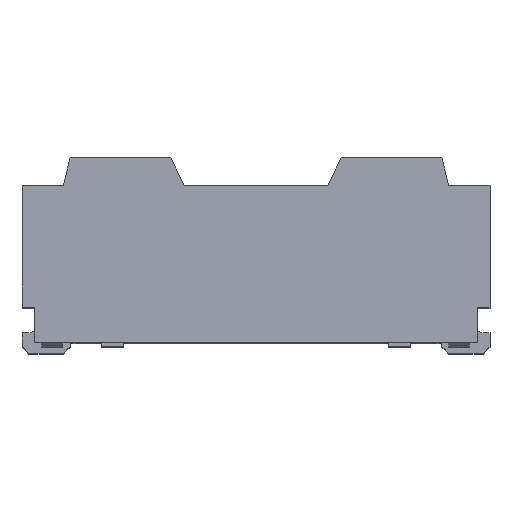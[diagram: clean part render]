
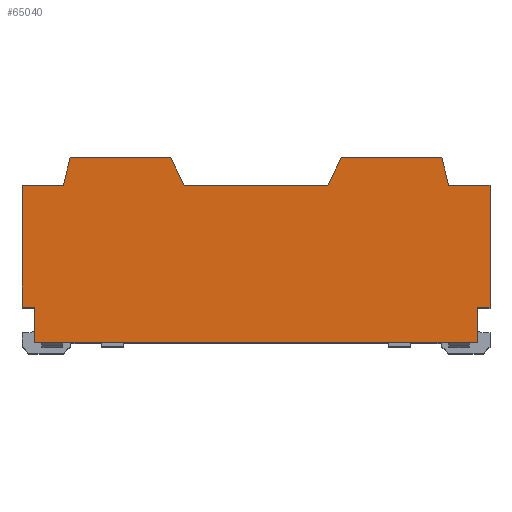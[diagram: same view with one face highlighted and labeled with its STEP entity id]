
A CAD part, top view. The second image highlights one B-rep face of the part: STEP entity #65040.
In plain terms, the highlighted planar face has unit normal (0, 0, 1).
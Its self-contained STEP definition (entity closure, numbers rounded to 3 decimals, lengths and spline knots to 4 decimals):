
#17405=DIRECTION('',(0.447,0.894,0.));
#17406=VECTOR('',#17405,0.2236);
#17407=CARTESIAN_POINT('',(0.52,1.14,8.15));
#17408=LINE('',#17407,#17406);
#17409=DIRECTION('',(0.243,-0.97,0.));
#17410=VECTOR('',#17409,0.2062);
#17411=CARTESIAN_POINT('',(1.35,1.34,8.15));
#17412=LINE('',#17411,#17410);
#17413=DIRECTION('',(0.,-1.,0.));
#17414=VECTOR('',#17413,0.885);
#17415=CARTESIAN_POINT('',(1.7,1.14,8.15));
#17416=LINE('',#17415,#17414);
#17417=DIRECTION('',(-1.,0.,0.));
#17418=VECTOR('',#17417,0.09);
#17419=CARTESIAN_POINT('',(1.7,0.255,8.15));
#17420=LINE('',#17419,#17418);
#17421=DIRECTION('',(0.,-1.,0.));
#17422=VECTOR('',#17421,0.255);
#17423=CARTESIAN_POINT('',(1.61,0.255,8.15));
#17424=LINE('',#17423,#17422);
#17425=DIRECTION('',(-1.,0.,0.));
#17426=VECTOR('',#17425,3.22);
#17427=CARTESIAN_POINT('',(1.61,0.,8.15));
#17428=LINE('',#17427,#17426);
#17429=DIRECTION('',(0.,1.,0.));
#17430=VECTOR('',#17429,0.255);
#17431=CARTESIAN_POINT('',(-1.61,0.,8.15));
#17432=LINE('',#17431,#17430);
#17433=DIRECTION('',(-1.,0.,0.));
#17434=VECTOR('',#17433,0.09);
#17435=CARTESIAN_POINT('',(-1.61,0.255,8.15));
#17436=LINE('',#17435,#17434);
#17437=DIRECTION('',(0.,1.,0.));
#17438=VECTOR('',#17437,0.885);
#17439=CARTESIAN_POINT('',(-1.7,0.255,8.15));
#17440=LINE('',#17439,#17438);
#17441=DIRECTION('',(0.243,0.97,0.));
#17442=VECTOR('',#17441,0.2062);
#17443=CARTESIAN_POINT('',(-1.4,1.14,8.15));
#17444=LINE('',#17443,#17442);
#17445=DIRECTION('',(1.,0.,0.));
#17446=VECTOR('',#17445,0.73);
#17447=CARTESIAN_POINT('',(-1.35,1.34,8.15));
#17448=LINE('',#17447,#17446);
#17449=DIRECTION('',(0.447,-0.894,0.));
#17450=VECTOR('',#17449,0.2236);
#17451=CARTESIAN_POINT('',(-0.62,1.34,8.15));
#17452=LINE('',#17451,#17450);
#17453=DIRECTION('',(-1.,0.,0.));
#17454=VECTOR('',#17453,1.04);
#17455=CARTESIAN_POINT('',(0.52,1.14,8.15));
#17456=LINE('',#17455,#17454);
#17494=DIRECTION('',(-1.,0.,0.));
#17495=VECTOR('',#17494,0.3);
#17496=CARTESIAN_POINT('',(-1.4,1.14,8.15));
#17497=LINE('',#17496,#17495);
#18246=DIRECTION('',(-1.,0.,0.));
#18247=VECTOR('',#18246,0.73);
#18248=CARTESIAN_POINT('',(1.35,1.34,8.15));
#18249=LINE('',#18248,#18247);
#18935=DIRECTION('',(-1.,0.,0.));
#18936=VECTOR('',#18935,0.3);
#18937=CARTESIAN_POINT('',(1.7,1.14,8.15));
#18938=LINE('',#18937,#18936);
#33829=CARTESIAN_POINT('',(1.7,0.255,8.15));
#33830=VERTEX_POINT('',#33829);
#33831=CARTESIAN_POINT('',(1.7,1.14,8.15));
#33832=VERTEX_POINT('',#33831);
#35051=CARTESIAN_POINT('',(-1.7,1.14,8.15));
#35052=VERTEX_POINT('',#35051);
#35053=CARTESIAN_POINT('',(-1.7,0.255,8.15));
#35054=VERTEX_POINT('',#35053);
#36507=CARTESIAN_POINT('',(-1.61,0.,8.15));
#36508=CARTESIAN_POINT('',(-1.61,0.255,8.15));
#36509=VERTEX_POINT('',#36507);
#36510=VERTEX_POINT('',#36508);
#36519=CARTESIAN_POINT('',(0.52,1.14,8.15));
#36520=CARTESIAN_POINT('',(-0.52,1.14,8.15));
#36521=VERTEX_POINT('',#36519);
#36522=VERTEX_POINT('',#36520);
#36523=CARTESIAN_POINT('',(0.62,1.34,8.15));
#36524=VERTEX_POINT('',#36523);
#36525=CARTESIAN_POINT('',(1.35,1.34,8.15));
#36526=VERTEX_POINT('',#36525);
#36527=CARTESIAN_POINT('',(1.4,1.14,8.15));
#36528=VERTEX_POINT('',#36527);
#36529=CARTESIAN_POINT('',(1.61,0.255,8.15));
#36530=VERTEX_POINT('',#36529);
#36531=CARTESIAN_POINT('',(1.61,0.,8.15));
#36532=VERTEX_POINT('',#36531);
#36533=CARTESIAN_POINT('',(-1.4,1.14,8.15));
#36534=VERTEX_POINT('',#36533);
#36535=CARTESIAN_POINT('',(-1.35,1.34,8.15));
#36536=VERTEX_POINT('',#36535);
#36537=CARTESIAN_POINT('',(-0.62,1.34,8.15));
#36538=VERTEX_POINT('',#36537);
#65005=CARTESIAN_POINT('',(1.7,1.14,8.15));
#65006=DIRECTION('',(0.,0.,-1.));
#65007=DIRECTION('',(-1.,0.,0.));
#65008=AXIS2_PLACEMENT_3D('',#65005,#65006,#65007);
#65009=PLANE('',#65008);
#65011=ORIENTED_EDGE('',*,*,#65010,.F.);
#65013=ORIENTED_EDGE('',*,*,#65012,.T.);
#65015=ORIENTED_EDGE('',*,*,#65014,.F.);
#65017=ORIENTED_EDGE('',*,*,#65016,.T.);
#65019=ORIENTED_EDGE('',*,*,#65018,.F.);
#65020=ORIENTED_EDGE('',*,*,#44230,.T.);
#65022=ORIENTED_EDGE('',*,*,#65021,.T.);
#65024=ORIENTED_EDGE('',*,*,#65023,.T.);
#65025=ORIENTED_EDGE('',*,*,#51851,.T.);
#65026=ORIENTED_EDGE('',*,*,#64987,.T.);
#65028=ORIENTED_EDGE('',*,*,#65027,.T.);
#65029=ORIENTED_EDGE('',*,*,#45979,.T.);
#65031=ORIENTED_EDGE('',*,*,#65030,.F.);
#65033=ORIENTED_EDGE('',*,*,#65032,.T.);
#65035=ORIENTED_EDGE('',*,*,#65034,.T.);
#65037=ORIENTED_EDGE('',*,*,#65036,.T.);
#65038=EDGE_LOOP('',(#65011,#65013,#65015,#65017,#65019,#65020,#65022,#65024,
#65025,#65026,#65028,#65029,#65031,#65033,#65035,#65037));
#65039=FACE_OUTER_BOUND('',#65038,.F.);
#44230=EDGE_CURVE('',#33832,#33830,#17416,.T.);
#45979=EDGE_CURVE('',#35054,#35052,#17440,.T.);
#51851=EDGE_CURVE('',#36532,#36509,#17428,.T.);
#64987=EDGE_CURVE('',#36509,#36510,#17432,.T.);
#65010=EDGE_CURVE('',#36521,#36522,#17456,.T.);
#65012=EDGE_CURVE('',#36521,#36524,#17408,.T.);
#65014=EDGE_CURVE('',#36526,#36524,#18249,.T.);
#65016=EDGE_CURVE('',#36526,#36528,#17412,.T.);
#65018=EDGE_CURVE('',#33832,#36528,#18938,.T.);
#65021=EDGE_CURVE('',#33830,#36530,#17420,.T.);
#65023=EDGE_CURVE('',#36530,#36532,#17424,.T.);
#65027=EDGE_CURVE('',#36510,#35054,#17436,.T.);
#65030=EDGE_CURVE('',#36534,#35052,#17497,.T.);
#65032=EDGE_CURVE('',#36534,#36536,#17444,.T.);
#65034=EDGE_CURVE('',#36536,#36538,#17448,.T.);
#65036=EDGE_CURVE('',#36538,#36522,#17452,.T.);
#65040=ADVANCED_FACE('',(#65039),#65009,.F.);
